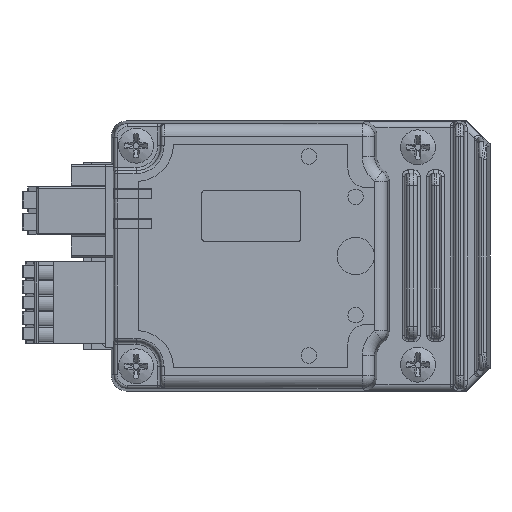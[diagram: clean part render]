
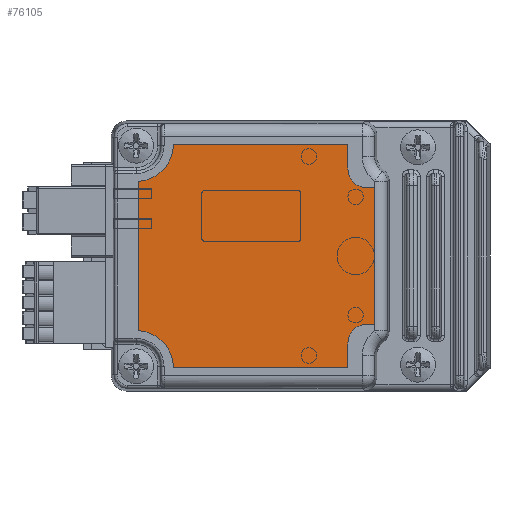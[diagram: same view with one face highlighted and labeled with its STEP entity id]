
A CAD part, left-side view. The second image highlights one B-rep face of the part: STEP entity #76105.
In plain terms, the highlighted planar face has unit normal (-1, 0, 0) as drawn and (0, 0, 1) by its records, which use the part's own axes.
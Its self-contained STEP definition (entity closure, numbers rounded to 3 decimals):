
#434 = LINE ( 'NONE', #63878, #37742 ) ;
#2743 = FACE_OUTER_BOUND ( 'NONE', #55105, .T. ) ;
#2951 = ORIENTED_EDGE ( 'NONE', *, *, #12906, .F. ) ;
#4022 = ORIENTED_EDGE ( 'NONE', *, *, #84263, .T. ) ;
#6369 = AXIS2_PLACEMENT_3D ( 'NONE', #43514, #85221, #44833 ) ;
#8798 = CARTESIAN_POINT ( 'NONE',  ( 0., 0., 0.1 ) ) ;
#8909 = VERTEX_POINT ( 'NONE', #75263 ) ;
#9690 = VERTEX_POINT ( 'NONE', #80268 ) ;
#11225 = EDGE_CURVE ( 'NONE', #100092, #9690, #84877, .T. ) ;
#12906 = EDGE_CURVE ( 'NONE', #8909, #60714, #49199, .T. ) ;
#13490 = ORIENTED_EDGE ( 'NONE', *, *, #17409, .T. ) ;
#16858 = VECTOR ( 'NONE', #32551, 1000. ) ;
#17409 = EDGE_CURVE ( 'NONE', #64748, #60714, #59521, .T. ) ;
#17466 = DIRECTION ( 'NONE',  ( 1., 0., 0. ) ) ;
#21609 = DIRECTION ( 'NONE',  ( 0., -1., 0. ) ) ;
#22905 = EDGE_CURVE ( 'NONE', #88358, #50633, #43196, .T. ) ;
#25316 = DIRECTION ( 'NONE',  ( 1., 0., 0. ) ) ;
#28343 = CIRCLE ( 'NONE', #124485, 3. ) ;
#29233 = PLANE ( 'NONE',  #64633 ) ;
#30514 = EDGE_CURVE ( 'NONE', #8909, #50633, #116411, .T. ) ;
#31891 = VECTOR ( 'NONE', #72361, 1000. ) ;
#32551 = DIRECTION ( 'NONE',  ( 0., -1., 0. ) ) ;
#32897 = CARTESIAN_POINT ( 'NONE',  ( 12.013, -19., 0.1 ) ) ;
#33047 = EDGE_CURVE ( 'NONE', #88358, #39268, #81008, .T. ) ;
#34349 = CARTESIAN_POINT ( 'NONE',  ( 11., 19., 0.1 ) ) ;
#35615 = CARTESIAN_POINT ( 'NONE',  ( 18., 14.7, 0.1 ) ) ;
#37313 = CIRCLE ( 'NONE', #6369, 6. ) ;
#37742 = VECTOR ( 'NONE', #43882, 1000. ) ;
#37764 = CARTESIAN_POINT ( 'NONE',  ( -14., 17.7, 0.1 ) ) ;
#38707 = CARTESIAN_POINT ( 'NONE',  ( 14., 17.7, 0.1 ) ) ;
#39268 = VERTEX_POINT ( 'NONE', #41128 ) ;
#39692 = ORIENTED_EDGE ( 'NONE', *, *, #100343, .T. ) ;
#40576 = VERTEX_POINT ( 'NONE', #118848 ) ;
#41128 = CARTESIAN_POINT ( 'NONE',  ( 11., 17.7, 0.1 ) ) ;
#42277 = LINE ( 'NONE', #99875, #128436 ) ;
#43196 = LINE ( 'NONE', #35615, #95142 ) ;
#43514 = CARTESIAN_POINT ( 'NONE',  ( -18., -19.4, 0.1 ) ) ;
#43882 = DIRECTION ( 'NONE',  ( 0., 1., 0. ) ) ;
#44833 = DIRECTION ( 'NONE',  ( 1., 0., 0. ) ) ;
#46146 = CARTESIAN_POINT ( 'NONE',  ( -18., 14.7, 0.1 ) ) ;
#47336 = CARTESIAN_POINT ( 'NONE',  ( 18., 19., 0.1 ) ) ;
#47736 = DIRECTION ( 'NONE',  ( 0., 0., -1. ) ) ;
#48626 = DIRECTION ( 'NONE',  ( 1., 0., 0. ) ) ;
#49199 = CIRCLE ( 'NONE', #131184, 6. ) ;
#50633 = VERTEX_POINT ( 'NONE', #72723 ) ;
#52095 = EDGE_CURVE ( 'NONE', #63585, #109544, #434, .T. ) ;
#52776 = ORIENTED_EDGE ( 'NONE', *, *, #22905, .F. ) ;
#54537 = CARTESIAN_POINT ( 'NONE',  ( -11., 17.7, 0.1 ) ) ;
#55105 = EDGE_LOOP ( 'NONE', ( #2951, #125020, #52776, #85432, #99150, #70641, #129708, #4022, #56360, #39692, #134822, #13490 ) ) ;
#56187 = CARTESIAN_POINT ( 'NONE',  ( -18., 14.7, 0.1 ) ) ;
#56360 = ORIENTED_EDGE ( 'NONE', *, *, #11225, .F. ) ;
#57829 = DIRECTION ( 'NONE',  ( 0., 1., 0. ) ) ;
#59521 = LINE ( 'NONE', #134240, #31891 ) ;
#60576 = VECTOR ( 'NONE', #25316, 1000. ) ;
#60714 = VERTEX_POINT ( 'NONE', #32897 ) ;
#63585 = VERTEX_POINT ( 'NONE', #54537 ) ;
#63878 = CARTESIAN_POINT ( 'NONE',  ( -11., 19., 0.1 ) ) ;
#64633 = AXIS2_PLACEMENT_3D ( 'NONE', #8798, #112378, #123296 ) ;
#64748 = VERTEX_POINT ( 'NONE', #133211 ) ;
#70641 = ORIENTED_EDGE ( 'NONE', *, *, #77822, .T. ) ;
#71029 = CARTESIAN_POINT ( 'NONE',  ( 18., -19.4, 0.1 ) ) ;
#72203 = LINE ( 'NONE', #93798, #132386 ) ;
#72361 = DIRECTION ( 'NONE',  ( 1., 0., 0. ) ) ;
#72594 = EDGE_CURVE ( 'NONE', #40576, #39268, #86668, .T. ) ;
#72723 = CARTESIAN_POINT ( 'NONE',  ( 18., 14.7, 0.1 ) ) ;
#75263 = CARTESIAN_POINT ( 'NONE',  ( 18., -13.4, 0.1 ) ) ;
#75530 = AXIS2_PLACEMENT_3D ( 'NONE', #38707, #47736, #48626 ) ;
#76105 = ADVANCED_FACE ( 'NONE', ( #2743 ), #29233, .T. ) ;
#77822 = EDGE_CURVE ( 'NONE', #40576, #109544, #42277, .T. ) ;
#77984 = CARTESIAN_POINT ( 'NONE',  ( -11., 19., 0.1 ) ) ;
#80268 = CARTESIAN_POINT ( 'NONE',  ( -14., 14.7, 0.1 ) ) ;
#81008 = CIRCLE ( 'NONE', #75530, 3. ) ;
#82208 = VECTOR ( 'NONE', #57829, 1000. ) ;
#84263 = EDGE_CURVE ( 'NONE', #63585, #9690, #28343, .T. ) ;
#84877 = LINE ( 'NONE', #56187, #60576 ) ;
#85221 = DIRECTION ( 'NONE',  ( 0., 0., 1. ) ) ;
#85432 = ORIENTED_EDGE ( 'NONE', *, *, #33047, .T. ) ;
#85491 = CARTESIAN_POINT ( 'NONE',  ( 14., 14.7, 0.1 ) ) ;
#86668 = LINE ( 'NONE', #34349, #16858 ) ;
#86862 = DIRECTION ( 'NONE',  ( 1., 0., 0. ) ) ;
#88358 = VERTEX_POINT ( 'NONE', #85491 ) ;
#93798 = CARTESIAN_POINT ( 'NONE',  ( -18., 19., 0.1 ) ) ;
#95142 = VECTOR ( 'NONE', #86862, 1000. ) ;
#99150 = ORIENTED_EDGE ( 'NONE', *, *, #72594, .F. ) ;
#99875 = CARTESIAN_POINT ( 'NONE',  ( -18., 19., 0.1 ) ) ;
#100092 = VERTEX_POINT ( 'NONE', #46146 ) ;
#100343 = EDGE_CURVE ( 'NONE', #100092, #102854, #72203, .T. ) ;
#100585 = DIRECTION ( 'NONE',  ( 0., 0., 1. ) ) ;
#100767 = DIRECTION ( 'NONE',  ( -1., 0., 0. ) ) ;
#102854 = VERTEX_POINT ( 'NONE', #131509 ) ;
#109544 = VERTEX_POINT ( 'NONE', #77984 ) ;
#110852 = DIRECTION ( 'NONE',  ( 0., 0., -1. ) ) ;
#112378 = DIRECTION ( 'NONE',  ( 0., 0., 1. ) ) ;
#116411 = LINE ( 'NONE', #47336, #82208 ) ;
#118848 = CARTESIAN_POINT ( 'NONE',  ( 11., 19., 0.1 ) ) ;
#121332 = DIRECTION ( 'NONE',  ( 1., 0., 0. ) ) ;
#123296 = DIRECTION ( 'NONE',  ( 1., 0., 0. ) ) ;
#124485 = AXIS2_PLACEMENT_3D ( 'NONE', #37764, #110852, #121332 ) ;
#125020 = ORIENTED_EDGE ( 'NONE', *, *, #30514, .T. ) ;
#128436 = VECTOR ( 'NONE', #100767, 1000. ) ;
#129708 = ORIENTED_EDGE ( 'NONE', *, *, #52095, .F. ) ;
#131184 = AXIS2_PLACEMENT_3D ( 'NONE', #71029, #100585, #17466 ) ;
#131509 = CARTESIAN_POINT ( 'NONE',  ( -18., -13.4, 0.1 ) ) ;
#132386 = VECTOR ( 'NONE', #21609, 1000. ) ;
#133211 = CARTESIAN_POINT ( 'NONE',  ( -12.013, -19., 0.1 ) ) ;
#133847 = EDGE_CURVE ( 'NONE', #64748, #102854, #37313, .T. ) ;
#134240 = CARTESIAN_POINT ( 'NONE',  ( -18., -19., 0.1 ) ) ;
#134822 = ORIENTED_EDGE ( 'NONE', *, *, #133847, .F. ) ;
